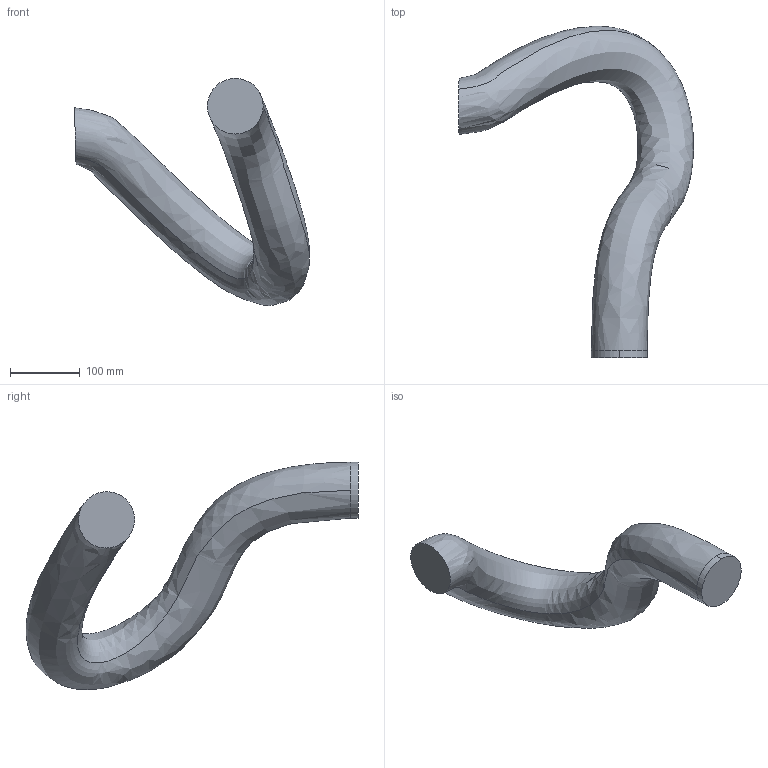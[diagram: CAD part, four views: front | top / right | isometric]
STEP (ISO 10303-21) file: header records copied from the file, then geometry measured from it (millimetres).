
FILE_DESCRIPTION (( 'STEP AP214' ), '1' );
FILE_NAME ('IRB6730-LID_220kg-290_OC_00_LINK05_CABLE.step', '2026-05-26T09:11:42', ( '' ), ( '' ), 'SwSTEP 2.0', 'SolidWorks 2024', '' );
FILE_SCHEMA (( 'AUTOMOTIVE_DESIGN' ));
Length unit declared in the file: millimetre
Products named in the file (1): IRB6730-LID_220kg-290_OC_00_LINK05_CABLE
Bounding box: 337.18 x 476.28 x 326.16 mm (x, y, z)
Volume: 4449174.5 mm3; surface area: 232769.3 mm2
Topology: 1 solids, 1 shells, 6 faces, 12 edges, 8 vertices
Faces by surface type: bspline 2, cylinder 2, plane 2
Entity records: 2364 total; most frequent: CARTESIAN_POINT 2156, ORIENTED_EDGE 24, DIRECTION 24, EDGE_CURVE 12, AXIS2_PLACEMENT_3D 11, UNCERTAINTY_MEASURE_WITH_UNIT 8, VERTEX_POINT 8, COLOUR_RGB 7
